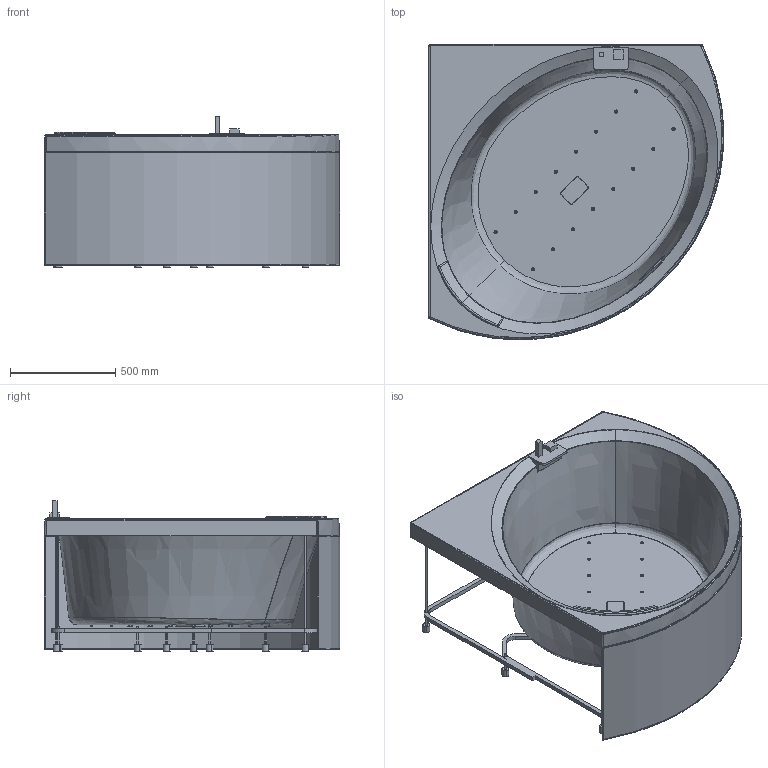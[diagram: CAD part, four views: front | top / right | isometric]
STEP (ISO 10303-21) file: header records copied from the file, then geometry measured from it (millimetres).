
FILE_DESCRIPTION(('STEP AP203'),'2;1');
FILE_NAME('DIVY140140O2-A1K.stp','2016-02-24T17:34:46',(''),(''),'2014.1.117','THINKDESIGN','');
FILE_SCHEMA(('CONFIG_CONTROL_DESIGN'));
Length unit declared in the file: millimetre
Bounding box: 1401.76 x 1401.98 x 716.4 mm (x, y, z)
Volume: 19479975.1 mm3; surface area: 10729293.3 mm2
Topology: 23 solids, 23 shells, 517 faces, 1170 edges, 742 vertices
Faces by surface type: cylinder 247, plane 167, bspline 103
Entity records: 23292 total; most frequent: CARTESIAN_POINT 11647, DIRECTION 2440, ORIENTED_EDGE 2324, EDGE_CURVE 1162, AXIS2_PLACEMENT_3D 968, VERTEX_POINT 742, EDGE_LOOP 604, CIRCLE 554
